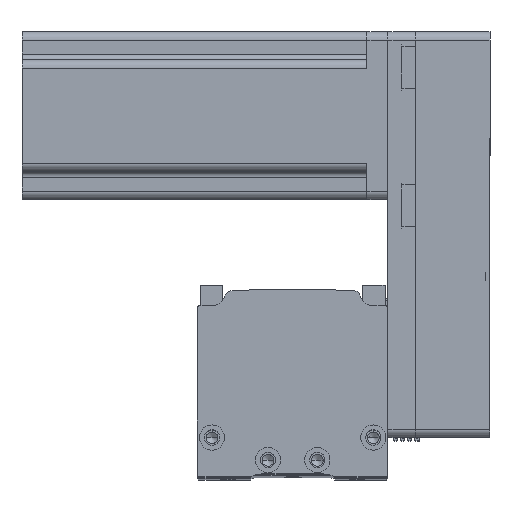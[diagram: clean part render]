
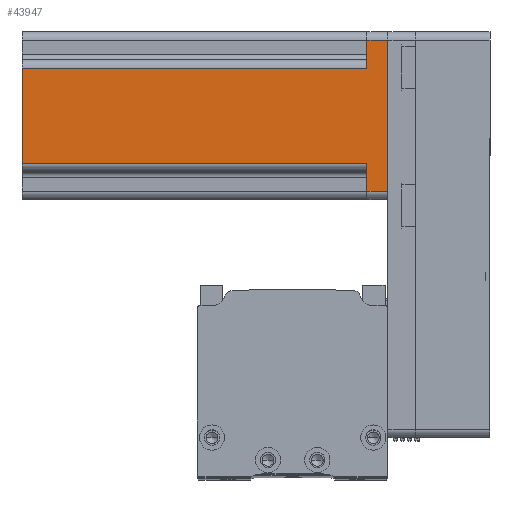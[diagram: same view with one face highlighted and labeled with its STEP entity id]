
A CAD part, top view. The second image highlights one B-rep face of the part: STEP entity #43947.
In plain terms, the highlighted planar face has unit normal (0, 0, 1) as drawn and (0, -1, 0) by its records, which use the part's own axes.
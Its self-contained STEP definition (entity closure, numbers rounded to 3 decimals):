
#1808 = VERTEX_POINT ( 'NONE', #5603 ) ;
#1826 = VERTEX_POINT ( 'NONE', #9016 ) ;
#1887 = VECTOR ( 'NONE', #17770, 1000. ) ;
#2454 = CARTESIAN_POINT ( 'NONE',  ( 27., -30., 130.7 ) ) ;
#2635 = CARTESIAN_POINT ( 'NONE',  ( -27., -30., 7.5 ) ) ;
#4004 = EDGE_CURVE ( 'NONE', #15294, #36338, #12007, .T. ) ;
#4151 = CARTESIAN_POINT ( 'NONE',  ( -17., -30., 130.7 ) ) ;
#5603 = CARTESIAN_POINT ( 'NONE',  ( 27., -30., 7.5 ) ) ;
#5745 = VECTOR ( 'NONE', #24379, 1000. ) ;
#5754 = DIRECTION ( 'NONE',  ( 1., 0., 0. ) ) ;
#6221 = VECTOR ( 'NONE', #13932, 1000. ) ;
#7290 = LINE ( 'NONE', #10537, #6221 ) ;
#7534 = LINE ( 'NONE', #2454, #25543 ) ;
#8310 = ORIENTED_EDGE ( 'NONE', *, *, #20849, .T. ) ;
#8718 = VECTOR ( 'NONE', #17698, 1000. ) ;
#8905 = EDGE_CURVE ( 'NONE', #28387, #14261, #14787, .T. ) ;
#9016 = CARTESIAN_POINT ( 'NONE',  ( 17., -30., 7.5 ) ) ;
#9132 = CARTESIAN_POINT ( 'NONE',  ( 30., -30., 0. ) ) ;
#9210 = EDGE_CURVE ( 'NONE', #41726, #12062, #11558, .T. ) ;
#9280 = DIRECTION ( 'NONE',  ( 0., 0., 1. ) ) ;
#9468 = ORIENTED_EDGE ( 'NONE', *, *, #26017, .T. ) ;
#10029 = ORIENTED_EDGE ( 'NONE', *, *, #4004, .F. ) ;
#10537 = CARTESIAN_POINT ( 'NONE',  ( 20., -30., 7.5 ) ) ;
#11558 = LINE ( 'NONE', #37743, #5745 ) ;
#12007 = LINE ( 'NONE', #21218, #1887 ) ;
#12056 = FACE_OUTER_BOUND ( 'NONE', #36891, .T. ) ;
#12062 = VERTEX_POINT ( 'NONE', #15704 ) ;
#13932 = DIRECTION ( 'NONE',  ( -1., 0., 0. ) ) ;
#14261 = VERTEX_POINT ( 'NONE', #16001 ) ;
#14298 = CARTESIAN_POINT ( 'NONE',  ( -27., -30., 130.7 ) ) ;
#14787 = LINE ( 'NONE', #9132, #40799 ) ;
#15235 = ORIENTED_EDGE ( 'NONE', *, *, #31265, .T. ) ;
#15294 = VERTEX_POINT ( 'NONE', #2635 ) ;
#15704 = CARTESIAN_POINT ( 'NONE',  ( 17., -30., 130.7 ) ) ;
#16001 = CARTESIAN_POINT ( 'NONE',  ( 27., -30., 0. ) ) ;
#16140 = CARTESIAN_POINT ( 'NONE',  ( -27., -30., 0. ) ) ;
#17626 = DIRECTION ( 'NONE',  ( 0., 1., 0. ) ) ;
#17698 = DIRECTION ( 'NONE',  ( 0., 0., -1. ) ) ;
#17770 = DIRECTION ( 'NONE',  ( 1., 0., 0. ) ) ;
#17977 = CARTESIAN_POINT ( 'NONE',  ( -17., -30., 7.5 ) ) ;
#19081 = LINE ( 'NONE', #4151, #37093 ) ;
#20849 = EDGE_CURVE ( 'NONE', #15294, #28387, #27778, .T. ) ;
#21218 = CARTESIAN_POINT ( 'NONE',  ( -20., -30., 7.5 ) ) ;
#22018 = CARTESIAN_POINT ( 'NONE',  ( -17., -30., 130.7 ) ) ;
#24300 = PLANE ( 'NONE',  #42712 ) ;
#24321 = ORIENTED_EDGE ( 'NONE', *, *, #8905, .T. ) ;
#24379 = DIRECTION ( 'NONE',  ( 1., 0., 0. ) ) ;
#25543 = VECTOR ( 'NONE', #9280, 1000. ) ;
#26017 = EDGE_CURVE ( 'NONE', #1808, #1826, #7290, .T. ) ;
#27064 = EDGE_CURVE ( 'NONE', #1826, #12062, #32150, .T. ) ;
#27778 = LINE ( 'NONE', #14298, #8718 ) ;
#27856 = DIRECTION ( 'NONE',  ( 0., 0., -1. ) ) ;
#28086 = ORIENTED_EDGE ( 'NONE', *, *, #39939, .T. ) ;
#28387 = VERTEX_POINT ( 'NONE', #16140 ) ;
#31077 = VECTOR ( 'NONE', #40247, 1000. ) ;
#31265 = EDGE_CURVE ( 'NONE', #41726, #36338, #19081, .T. ) ;
#31357 = ORIENTED_EDGE ( 'NONE', *, *, #27064, .T. ) ;
#31945 = ORIENTED_EDGE ( 'NONE', *, *, #9210, .F. ) ;
#32150 = LINE ( 'NONE', #36810, #31077 ) ;
#36338 = VERTEX_POINT ( 'NONE', #17977 ) ;
#36810 = CARTESIAN_POINT ( 'NONE',  ( 17., -30., 130.7 ) ) ;
#36891 = EDGE_LOOP ( 'NONE', ( #31945, #15235, #10029, #8310, #24321, #28086, #9468, #31357 ) ) ;
#37093 = VECTOR ( 'NONE', #27856, 1000. ) ;
#37743 = CARTESIAN_POINT ( 'NONE',  ( 30., -30., 130.7 ) ) ;
#37939 = CARTESIAN_POINT ( 'NONE',  ( 30., -30., 130.7 ) ) ;
#39939 = EDGE_CURVE ( 'NONE', #14261, #1808, #7534, .T. ) ;
#40247 = DIRECTION ( 'NONE',  ( 0., 0., 1. ) ) ;
#40799 = VECTOR ( 'NONE', #5754, 1000. ) ;
#41354 = DIRECTION ( 'NONE',  ( -1., 0., 0. ) ) ;
#41726 = VERTEX_POINT ( 'NONE', #22018 ) ;
#42712 = AXIS2_PLACEMENT_3D ( 'NONE', #37939, #17626, #41354 ) ;
#43947 = ADVANCED_FACE ( 'NONE', ( #12056 ), #24300, .F. ) ;
